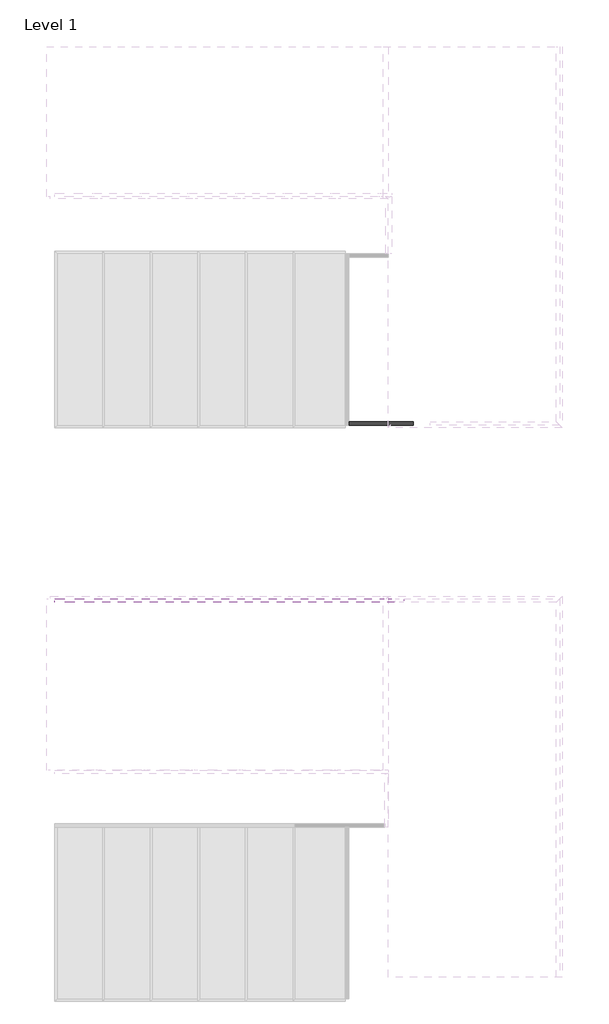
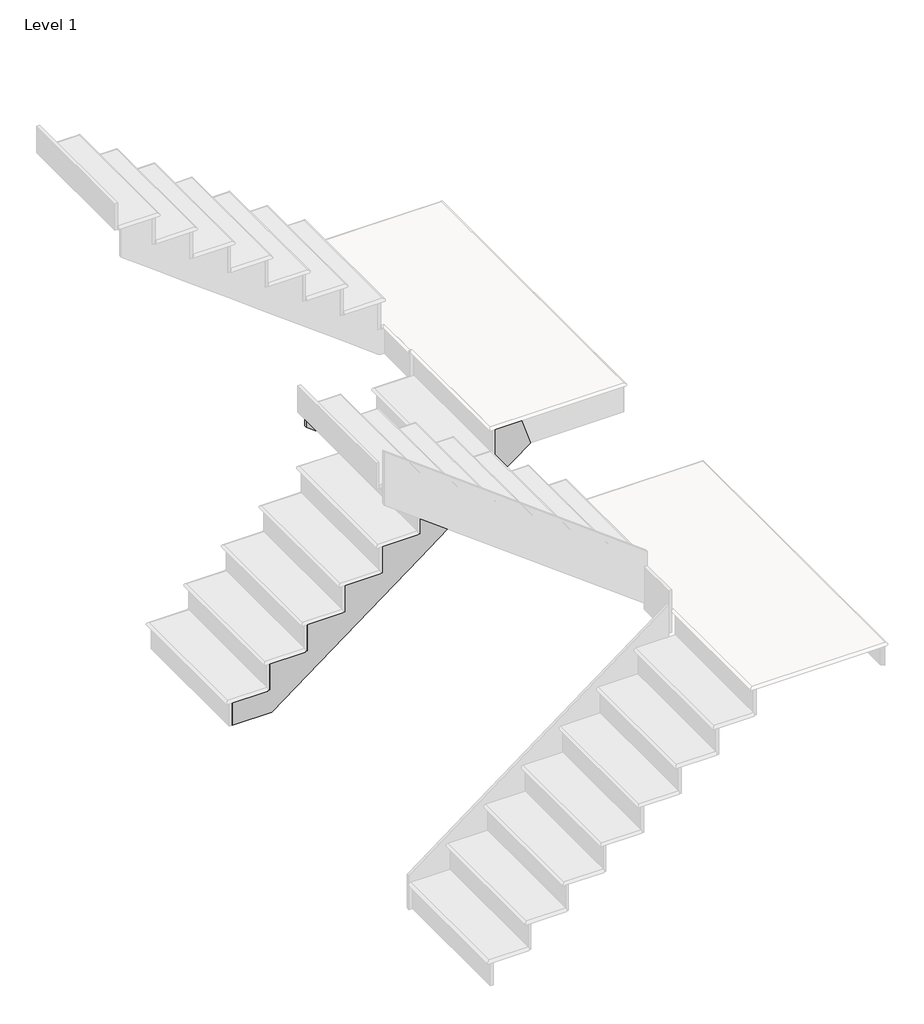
# One storey, part 11 of 15: 2 members.
"""IFC4 building model written with IfcOpenShell, lengths in millimetres."""

import ifcopenshell
import ifcopenshell.guid

model = None  # the IFC model being written
_history = None  # IfcOwnerHistory: only IFC2X3 demands one
_inside = {}  # id of a spatial element -> (the spatial element, [elements in it])
_under = {}  # id of a project, library or spatial element -> (it, [spatial elements below it])
_declared = {}  # id of a project -> (the project, [libraries it declares])
_typed = {}  # id of a type object -> (the type object, [elements of that type])
_made_of = {}  # id of a material, layer set ... -> (it, [elements and type objects made of it])


def new_model(schema):
    """Start an empty IFC model of exactly this schema.

    Asked for "IFC4X3", IfcOpenShell would pick the latest addendum, in which some entities
    have other attributes; the version numbers below select the first issue.
    IFC2X3 requires an IfcOwnerHistory on every rooted entity: one is made here for all.
    """
    global model, _history
    if schema == "IFC4X3":
        model = ifcopenshell.file(schema_version=(4, 3, 0, 0))
    else:
        model = ifcopenshell.file(schema=schema)
    _inside.clear()
    _under.clear()
    _declared.clear()
    _typed.clear()
    _made_of.clear()
    _history = None
    if model.schema == "IFC2X3":
        org = make("IfcOrganization", Name="unknown")
        user = make(
            "IfcPersonAndOrganization",
            ThePerson=make("IfcPerson", FamilyName="unknown"),
            TheOrganization=org,
        )
        app = make(
            "IfcApplication",
            ApplicationDeveloper=org,
            Version="unknown",
            ApplicationFullName="unknown",
            ApplicationIdentifier="unknown",
        )
        _history = make(
            "IfcOwnerHistory",
            OwningUser=user,
            OwningApplication=app,
            ChangeAction="ADDED",
            CreationDate=0,
        )
    return model


def make(cls, **values):
    """One entity of the class cls with the attributes given. An attribute that is None is left unset."""
    return model.create_entity(
        cls, **{name: value for name, value in values.items() if value is not None}
    )


def rooted(cls, **values):
    """An entity with a GlobalId (a new one), such as an element, a storey or a relation."""
    return make(cls, GlobalId=ifcopenshell.guid.new(), OwnerHistory=_history, **values)


def si_unit(unit_type, name, prefix=None):
    """IfcSIUnit, for example si_unit("LENGTHUNIT", "METRE", prefix="MILLI")."""
    return make("IfcSIUnit", UnitType=unit_type, Prefix=prefix, Name=name)


def assignment(units):
    """IfcUnitAssignment: the units of a project."""
    return None if units is None else make("IfcUnitAssignment", Units=units)


def point(xyz):
    """IfcCartesianPoint."""
    return None if xyz is None else make("IfcCartesianPoint", Coordinates=xyz)


def direction(xyz):
    """IfcDirection."""
    return None if xyz is None else make("IfcDirection", DirectionRatios=xyz)


def frame(location, z_axis=None, x_axis=None):
    """IfcAxis2Placement3D, a coordinate frame: its origin and axes. An axis left out is left unset."""
    return make(
        "IfcAxis2Placement3D",
        Location=point(location),
        Axis=direction(z_axis),
        RefDirection=direction(x_axis),
    )


def origin():
    """The frame at (0, 0, 0) with its axes left unset."""
    return frame((0.0, 0.0, 0.0))


def place(relative_to, where):
    """IfcLocalPlacement: puts the frame where relative to a parent placement (None: the world)."""
    return make(
        "IfcLocalPlacement", PlacementRelTo=relative_to, RelativePlacement=where
    )


def context(
    kind, dimensions, precision=None, world=None, true_north=None, identifier=None
):
    """IfcGeometricRepresentationContext, for example the 3D "Model" context."""
    return make(
        "IfcGeometricRepresentationContext",
        ContextIdentifier=identifier,
        ContextType=kind,
        CoordinateSpaceDimension=dimensions,
        Precision=precision,
        WorldCoordinateSystem=world,
        TrueNorth=true_north,
    )


def project(units=None, contexts=None):
    """IfcProject with its units and contexts."""
    return rooted(
        "IfcProject",
        Name="project",
        RepresentationContexts=contexts,
        UnitsInContext=assignment(units),
    )


def spatial(cls, under=None, at=None, **own):
    """A site, building, storey or space (cls), placed at a placement, below another one or the project."""
    s = rooted(cls, ObjectPlacement=at, **own)
    if under is not None:
        _under.setdefault(under.id(), (under, []))[1].append(s)
    return s


def faces_of(points, faces, orient=None, outer=None):
    """IfcFace entities. A face is a list of loops; a loop is a list of indices into points, from 0.

    orient and outer hold one flag for each loop. By default every Orientation is true, the
    first loop of a face is its IfcFaceOuterBound and the others are IfcFaceBound.
    """
    made = []
    for i, loops in enumerate(faces):
        bounds = []
        for j, loop in enumerate(loops):
            is_outer = j == 0 if outer is None else outer[i][j]
            bounds.append(
                make(
                    "IfcFaceOuterBound" if is_outer else "IfcFaceBound",
                    Bound=make("IfcPolyLoop", Polygon=[points[k] for k in loop]),
                    Orientation=True if orient is None else orient[i][j],
                )
            )
        made.append(make("IfcFace", Bounds=bounds))
    return made


def faceted_brep(points, faces, orient=None, outer=None, voids=None):
    """IfcFacetedBrep: a solid bounded by flat faces; with voids (closed shells), ...WithVoids."""
    shared = [point(p) for p in points]
    hull = make("IfcClosedShell", CfsFaces=faces_of(shared, faces, orient, outer))
    if voids is None:
        return make("IfcFacetedBrep", Outer=hull)
    return make(
        "IfcFacetedBrepWithVoids",
        Outer=hull,
        Voids=[
            make(cls, CfsFaces=faces_of(shared, fs, o, b)) for cls, fs, o, b in voids
        ],
    )


def shape(context_of_items, identifier, shape_type, items):
    """IfcShapeRepresentation: the items that make up one representation, for example the "Body"."""
    return make(
        "IfcShapeRepresentation",
        ContextOfItems=context_of_items,
        RepresentationIdentifier=identifier,
        RepresentationType=shape_type,
        Items=items,
    )


def made_of(thing, what):
    """Note that an element or type object is made of a material, layer set ...; save() writes the relation."""
    if what is not None:
        _made_of.setdefault(what.id(), (what, []))[1].append(thing)
    return thing


def element(
    cls,
    number,
    at=None,
    inside=None,
    cuts=None,
    type_object=None,
    material=None,
    context=None,
    identifier="Body",
    shape_type=None,
    held_by="IfcProductDefinitionShape",
    body=None,
    shapes=None,
    **own,
):
    """One element of the class cls, such as IfcWall. Its Tag is "e" and its number.

    at: its placement. inside: the storey or other place that contains it. cuts: it is an
    opening in that element (IfcRelVoidsElement). A single representation is given by context,
    identifier, shape_type and body (its items); several are given by shapes. held_by: the class
    of the entity that holds the representations. save() writes the other relations.
    """
    e = rooted(cls, Tag="e%d" % number, ObjectPlacement=at, **own)
    if body is not None:
        shapes = [shape(context, identifier, shape_type, body)]
    if shapes is not None:
        e.Representation = make(held_by, Representations=shapes)
    if inside is not None:
        _inside.setdefault(inside.id(), (inside, []))[1].append(e)
    if cuts is not None:
        rooted(
            "IfcRelVoidsElement", RelatingBuildingElement=cuts, RelatedOpeningElement=e
        )
    if type_object is not None:
        _typed.setdefault(type_object.id(), (type_object, []))[1].append(e)
    return made_of(e, material)


def aggregate(whole, parts):
    """IfcRelAggregates: a whole, such as a stair, and the parts it consists of."""
    return rooted("IfcRelAggregates", RelatingObject=whole, RelatedObjects=parts)


def save(model, path):
    """Write the relations noted so far, then the file.

    IfcRelAggregates (storeys below a building ...), IfcRelContainedInSpatialStructure (elements
    in a storey), IfcRelDefinesByType, IfcRelAssociatesMaterial and IfcRelDeclares: one each for
    every whole, place, type object, material and project.
    """
    for whole, parts in _under.values():
        aggregate(whole, parts)
    for where, things in _inside.values():
        rooted(
            "IfcRelContainedInSpatialStructure",
            RelatedElements=things,
            RelatingStructure=where,
        )
    for kind, things in _typed.values():
        rooted("IfcRelDefinesByType", RelatedObjects=things, RelatingType=kind)
    for what, things in _made_of.values():
        rooted("IfcRelAssociatesMaterial", RelatedObjects=things, RelatingMaterial=what)
    for by, libraries in _declared.values():
        rooted("IfcRelDeclares", RelatingContext=by, RelatedDefinitions=libraries)
    model.write(path)


model = new_model("IFC4")

# Units and contexts
model_context = context("Model", 3, world=origin())
ifc_project = project(units=[si_unit("LENGTHUNIT", "METRE", prefix="MILLI")], contexts=[model_context])

# Site, building, storey
site = spatial("IfcSite", under=ifc_project)
building = spatial("IfcBuilding", under=site)
storey = spatial("IfcBuildingStorey", under=building, Name="Level 1", Elevation=0.0)

# Members
placement = place(None, origin())
element("IfcMember", 1, ObjectType="Stringer - Unassigned - 3/4\" Width (1)", at=placement, inside=storey, context=model_context, shape_type="Brep", body=[
    faceted_brep([(-17737.5981446, 3974.9628094, 0.0), (-17470.8981446, 3974.9628094, 0.0), (-17470.8981446, 3955.9128094, 0.0), (-17737.5981446, 3955.9128094, 0.0), (-17737.5981446, 3955.9128094, 157.1625), (-17727.0148113, 3955.9128094, 165.1), (-17727.0148113, 3974.9628094, 165.1), (-17737.5981446, 3974.9628094, 157.1625), (-17483.5981446, 3955.9128094, 347.6625), (-17473.0148113, 3955.9128094, 355.6), (-17473.0148113, 3974.9628094, 355.6), (-17483.5981446, 3974.9628094, 347.6625), (-17229.5981446, 3955.9128094, 538.1625), (-17219.0148113, 3955.9128094, 546.1), (-17219.0148113, 3974.9628094, 546.1), (-17229.5981446, 3974.9628094, 538.1625), (-16975.5981446, 3955.9128094, 728.6625), (-16965.0148113, 3955.9128094, 736.6), (-16965.0148113, 3974.9628094, 736.6), (-16975.5981446, 3974.9628094, 728.6625), (-16721.5981446, 3955.9128094, 919.1625), (-16711.0148113, 3955.9128094, 927.1), (-16711.0148113, 3974.9628094, 927.1), (-16721.5981446, 3974.9628094, 919.1625), (-16467.5981446, 3955.9128094, 1109.6625), (-16457.0148113, 3955.9128094, 1117.6), (-16457.0148113, 3974.9628094, 1117.6), (-16467.5981446, 3974.9628094, 1109.6625), (-16213.5981446, 3955.9128094, 1300.1625), (-16203.0148113, 3955.9128094, 1308.1), (-16203.0148113, 3974.9628094, 1308.1), (-16213.5981446, 3974.9628094, 1300.1625), (-15959.5981446, 3955.9128094, 1490.6625), (-15949.0148113, 3955.9128094, 1498.6), (-15949.0148113, 3974.9628094, 1498.6), (-15959.5981446, 3974.9628094, 1490.6625), (-17229.5981446, 3955.9128094, 180.975), (-16975.5981446, 3955.9128094, 371.475), (-16721.5981446, 3955.9128094, 561.975), (-16467.5981446, 3955.9128094, 752.475), (-16213.5981446, 3955.9128094, 942.975), (-16004.0481446, 3955.9128094, 1100.1375), (-15959.5981446, 3955.9128094, 1133.475), (-15718.2981446, 3955.9128094, 1314.45), (-15779.681478, 3955.9128094, 1498.6), (-15959.5981446, 3955.9128094, 1308.1), (-16004.0481446, 3955.9128094, 1308.1), (-16213.5981446, 3955.9128094, 1117.6), (-16467.5981446, 3955.9128094, 927.1), (-16721.5981446, 3955.9128094, 736.6), (-16975.5981446, 3955.9128094, 546.1), (-17229.5981446, 3955.9128094, 355.6), (-17483.5981446, 3955.9128094, 165.1), (-17483.5981446, 3974.9628094, 165.1), (-17229.5981446, 3974.9628094, 355.6), (-16975.5981446, 3974.9628094, 546.1), (-16721.5981446, 3974.9628094, 736.6), (-16467.5981446, 3974.9628094, 927.1), (-16213.5981446, 3974.9628094, 1117.6), (-15959.5981446, 3974.9628094, 1308.1), (-15779.681478, 3974.9628094, 1498.6), (-15718.2981446, 3974.9628094, 1314.45)], [[[0, 1, 2, 3]], [[4, 5, 6, 7]], [[8, 9, 10, 11]], [[12, 13, 14, 15]], [[16, 17, 18, 19]], [[20, 21, 22, 23]], [[24, 25, 26, 27]], [[28, 29, 30, 31]], [[32, 33, 34, 35]], [[5, 4, 3, 2, 36, 37, 38, 39, 40, 41, 42, 43, 44, 33, 32, 45, 46, 29, 28, 47, 25, 24, 48, 21, 20, 49, 17, 16, 50, 13, 12, 51, 9, 8, 52]], [[52, 53, 6, 5]], [[7, 6, 53, 11, 10, 54, 15, 14, 55, 19, 18, 56, 23, 22, 57, 27, 26, 58, 31, 30, 59, 35, 34, 60, 61, 1, 0]], [[4, 7, 0, 3]], [[51, 54, 10, 9]], [[53, 52, 8, 11]], [[50, 55, 14, 13]], [[54, 51, 12, 15]], [[49, 56, 18, 17]], [[55, 50, 16, 19]], [[48, 57, 22, 21]], [[56, 49, 20, 23]], [[47, 58, 26, 25]], [[57, 48, 24, 27]], [[45, 59, 30, 29, 46]], [[58, 47, 28, 31]], [[34, 33, 44, 60]], [[59, 45, 32, 35]], [[43, 61, 60, 44]], [[61, 43, 42, 41, 40, 39, 38, 37, 36, 2, 1]]]),
])
element("IfcMember", 2, at=placement, inside=storey, context=model_context, shape_type="Brep", body=[
    faceted_brep([(-17782.0481446, 3029.7568972, 2719.3875), (-17782.0481446, 3010.7068972, 2719.3875), (-17782.0481446, 3010.7068972, 2832.1), (-17782.0481446, 3029.7568972, 2832.1), (-15968.0648113, 3010.7068972, 1358.9), (-15921.4981446, 3010.7068972, 1498.6), (-16048.4981446, 3010.7068972, 1498.6), (-16048.4981446, 3010.7068972, 1689.1), (-16302.4981446, 3010.7068972, 1689.1), (-16302.4981446, 3010.7068972, 1879.6), (-16556.4981446, 3010.7068972, 1879.6), (-16556.4981446, 3010.7068972, 2070.1), (-16810.4981446, 3010.7068972, 2070.1), (-16810.4981446, 3010.7068972, 2260.6), (-17064.4981446, 3010.7068972, 2260.6), (-17064.4981446, 3010.7068972, 2451.1), (-17318.4981446, 3010.7068972, 2451.1), (-17318.4981446, 3010.7068972, 2641.6), (-17572.4981446, 3010.7068972, 2641.6), (-17572.4981446, 3010.7068972, 2832.1), (-17572.4981446, 3029.7568972, 2562.225), (-17318.4981446, 3029.7568972, 2371.725), (-17064.4981446, 3029.7568972, 2181.225), (-16810.4981446, 3029.7568972, 1990.725), (-16556.4981446, 3029.7568972, 1800.225), (-16302.4981446, 3029.7568972, 1609.725), (-16048.4981446, 3029.7568972, 1419.225), (-16004.0481446, 3029.7568972, 1385.8875), (-15968.0648113, 3029.7568972, 1358.9), (-17572.4981446, 3029.7568972, 2832.1), (-17572.4981446, 3029.7568972, 2641.6), (-17318.4981446, 3029.7568972, 2641.6), (-17318.4981446, 3029.7568972, 2451.1), (-17064.4981446, 3029.7568972, 2451.1), (-17064.4981446, 3029.7568972, 2260.6), (-16810.4981446, 3029.7568972, 2260.6), (-16810.4981446, 3029.7568972, 2070.1), (-16556.4981446, 3029.7568972, 2070.1), (-16556.4981446, 3029.7568972, 1879.6), (-16302.4981446, 3029.7568972, 1879.6), (-16302.4981446, 3029.7568972, 1689.1), (-16048.4981446, 3029.7568972, 1689.1), (-16048.4981446, 3029.7568972, 1498.6), (-16004.0481446, 3029.7568972, 1498.6), (-15921.4981446, 3029.7568972, 1498.6)], [[[0, 1, 2, 3]], [[1, 4, 5, 6, 7, 8, 9, 10, 11, 12, 13, 14, 15, 16, 17, 18, 19, 2]], [[1, 0, 20, 21, 22, 23, 24, 25, 26, 27, 28, 4]], [[0, 3, 29, 30, 31, 32, 33, 34, 35, 36, 37, 38, 39, 40, 41, 42, 43, 44, 28, 27, 26, 25, 24, 23, 22, 21, 20]], [[4, 28, 44, 5]], [[7, 41, 40, 8]], [[41, 7, 6, 42]], [[9, 39, 38, 10]], [[8, 40, 39, 9]], [[11, 37, 36, 12]], [[10, 38, 37, 11]], [[13, 35, 34, 14]], [[12, 36, 35, 13]], [[15, 33, 32, 16]], [[14, 34, 33, 15]], [[17, 31, 30, 18]], [[16, 32, 31, 17]], [[19, 29, 3, 2]], [[18, 30, 29, 19]], [[42, 6, 5, 44, 43]]]),
])

save(model, "model.ifc")
